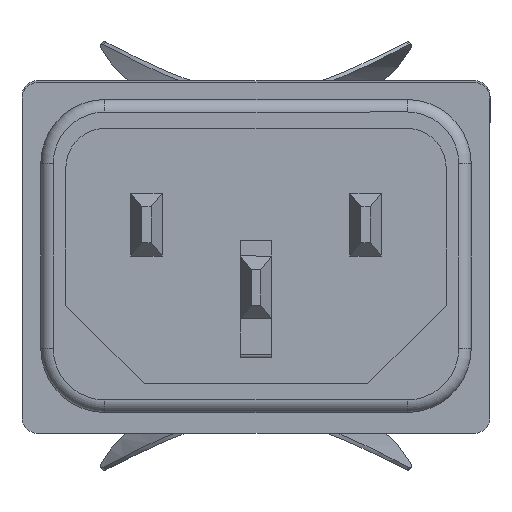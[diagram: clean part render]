
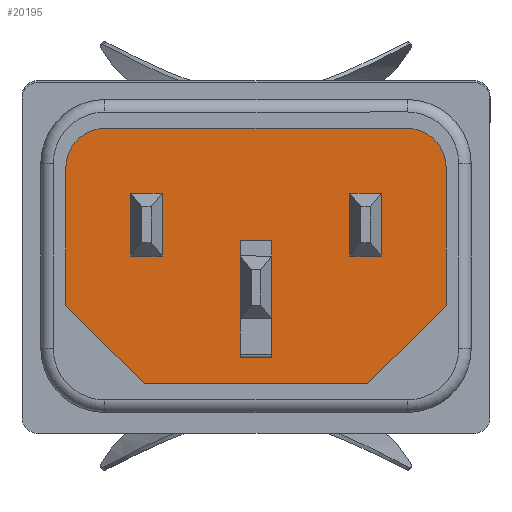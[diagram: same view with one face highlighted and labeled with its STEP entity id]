
A CAD part, front view. The second image highlights one B-rep face of the part: STEP entity #20195.
In plain terms, the highlighted planar face has unit normal (0, -1, 0).
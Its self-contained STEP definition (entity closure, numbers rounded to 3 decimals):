
#16637=CARTESIAN_POINT('',(-6.0,12.85,4.));
#16638=VERTEX_POINT('',#16637);
#16639=CARTESIAN_POINT('',(-6.0,12.85,0.));
#16640=VERTEX_POINT('',#16639);
#16641=CARTESIAN_POINT('',(-6.0,12.85,4.));
#16642=DIRECTION('',(0.0,0.0,-1.0));
#16643=VECTOR('',#16642,4.);
#16644=LINE('',#16641,#16643);
#16645=EDGE_CURVE('',#16638,#16640,#16644,.T.);
#16787=CARTESIAN_POINT('',(-8.,12.85,0.));
#16788=VERTEX_POINT('',#16787);
#16789=CARTESIAN_POINT('',(-8.,12.85,4.));
#16790=VERTEX_POINT('',#16789);
#16791=CARTESIAN_POINT('',(-8.,12.85,0.));
#16792=DIRECTION('',(0.0,0.0,1.0));
#16793=VECTOR('',#16792,4.);
#16794=LINE('',#16791,#16793);
#16795=EDGE_CURVE('',#16788,#16790,#16794,.T.);
#16821=CARTESIAN_POINT('',(-8.0,12.85,4.));
#16822=DIRECTION('',(1.0,0.0,0.0));
#16823=VECTOR('',#16822,2.0);
#16824=LINE('',#16821,#16823);
#16825=EDGE_CURVE('',#16790,#16638,#16824,.T.);
#16853=CARTESIAN_POINT('',(-6.0,12.85,0.));
#16854=DIRECTION('',(-1.0,0.0,0.0));
#16855=VECTOR('',#16854,2.);
#16856=LINE('',#16853,#16855);
#16857=EDGE_CURVE('',#16640,#16788,#16856,.T.);
#16976=CARTESIAN_POINT('',(1.,12.85,-6.051));
#16977=VERTEX_POINT('',#16976);
#16978=CARTESIAN_POINT('',(-1.,12.85,-6.051));
#16979=VERTEX_POINT('',#16978);
#16980=CARTESIAN_POINT('',(1.,12.85,-6.051));
#16981=DIRECTION('',(-1.0,0.0,0.0));
#16982=VECTOR('',#16981,2.0);
#16983=LINE('',#16980,#16982);
#16984=EDGE_CURVE('',#16977,#16979,#16983,.T.);
#17096=CARTESIAN_POINT('',(1.,12.85,1.));
#17097=VERTEX_POINT('',#17096);
#17098=CARTESIAN_POINT('',(1.,12.85,1.));
#17099=DIRECTION('',(0.0,0.0,-1.0));
#17100=VECTOR('',#17099,7.051);
#17101=LINE('',#17098,#17100);
#17102=EDGE_CURVE('',#17097,#16977,#17101,.T.);
#17278=CARTESIAN_POINT('',(-1.,12.85,1.));
#17279=VERTEX_POINT('',#17278);
#17280=CARTESIAN_POINT('',(-1.,12.85,-6.051));
#17281=DIRECTION('',(0.0,0.0,1.0));
#17282=VECTOR('',#17281,7.051);
#17283=LINE('',#17280,#17282);
#17284=EDGE_CURVE('',#16979,#17279,#17283,.T.);
#17477=CARTESIAN_POINT('',(-1.,12.85,1.));
#17478=DIRECTION('',(1.0,0.0,0.0));
#17479=VECTOR('',#17478,2.0);
#17480=LINE('',#17477,#17479);
#17481=EDGE_CURVE('',#17279,#17097,#17480,.T.);
#17787=CARTESIAN_POINT('',(8.,12.85,4.));
#17788=VERTEX_POINT('',#17787);
#17789=CARTESIAN_POINT('',(8.0,12.85,0.));
#17790=VERTEX_POINT('',#17789);
#17791=CARTESIAN_POINT('',(8.,12.85,4.));
#17792=DIRECTION('',(0.0,0.0,-1.0));
#17793=VECTOR('',#17792,4.);
#17794=LINE('',#17791,#17793);
#17795=EDGE_CURVE('',#17788,#17790,#17794,.T.);
#17937=CARTESIAN_POINT('',(6.,12.85,0.));
#17938=VERTEX_POINT('',#17937);
#17939=CARTESIAN_POINT('',(6.,12.85,4.));
#17940=VERTEX_POINT('',#17939);
#17941=CARTESIAN_POINT('',(6.0,12.85,0.));
#17942=DIRECTION('',(0.0,0.0,1.0));
#17943=VECTOR('',#17942,4.);
#17944=LINE('',#17941,#17943);
#17945=EDGE_CURVE('',#17938,#17940,#17944,.T.);
#17971=CARTESIAN_POINT('',(6.,12.85,4.));
#17972=DIRECTION('',(1.0,0.0,0.0));
#17973=VECTOR('',#17972,2.0);
#17974=LINE('',#17971,#17973);
#17975=EDGE_CURVE('',#17940,#17788,#17974,.T.);
#18003=CARTESIAN_POINT('',(8.0,12.85,0.));
#18004=DIRECTION('',(-1.0,0.0,0.0));
#18005=VECTOR('',#18004,2.);
#18006=LINE('',#18003,#18005);
#18007=EDGE_CURVE('',#17790,#17938,#18006,.T.);
#19973=CARTESIAN_POINT('',(12.15,12.85,5.65));
#19974=VERTEX_POINT('',#19973);
#19975=CARTESIAN_POINT('',(9.65,12.85,8.15));
#19976=VERTEX_POINT('',#19975);
#19977=CARTESIAN_POINT('',(9.65,12.85,5.65));
#19978=DIRECTION('',(0.0,-1.0,0.0));
#19979=DIRECTION('',(1.0,0.0,0.0));
#19980=AXIS2_PLACEMENT_3D('',#19977,#19978,#19979);
#19981=CIRCLE('',#19980,2.5);
#19982=EDGE_CURVE('',#19974,#19976,#19981,.T.);
#20005=CARTESIAN_POINT('',(-9.65,12.85,8.15));
#20006=VERTEX_POINT('',#20005);
#20007=CARTESIAN_POINT('',(9.65,12.85,8.15));
#20008=DIRECTION('',(-1.0,0.0,0.0));
#20009=VECTOR('',#20008,19.3);
#20010=LINE('',#20007,#20009);
#20011=EDGE_CURVE('',#19976,#20006,#20010,.T.);
#20029=CARTESIAN_POINT('',(-12.15,12.85,5.65));
#20030=VERTEX_POINT('',#20029);
#20031=CARTESIAN_POINT('',(-9.65,12.85,5.65));
#20032=DIRECTION('',(0.0,-1.0,0.0));
#20033=DIRECTION('',(0.0,0.0,1.0));
#20034=AXIS2_PLACEMENT_3D('',#20031,#20032,#20033);
#20035=CIRCLE('',#20034,2.5);
#20036=EDGE_CURVE('',#20006,#20030,#20035,.T.);
#20054=CARTESIAN_POINT('',(-12.15,12.85,-3.15));
#20055=VERTEX_POINT('',#20054);
#20056=CARTESIAN_POINT('',(-12.15,12.85,5.65));
#20057=DIRECTION('',(0.0,0.0,-1.0));
#20058=VECTOR('',#20057,8.8);
#20059=LINE('',#20056,#20058);
#20060=EDGE_CURVE('',#20030,#20055,#20059,.T.);
#20078=CARTESIAN_POINT('',(-7.15,12.85,-8.15));
#20079=VERTEX_POINT('',#20078);
#20080=CARTESIAN_POINT('',(-12.15,12.85,-3.15));
#20081=DIRECTION('',(0.707,0.0,-0.707));
#20082=VECTOR('',#20081,7.071);
#20083=LINE('',#20080,#20082);
#20084=EDGE_CURVE('',#20055,#20079,#20083,.T.);
#20102=CARTESIAN_POINT('',(7.15,12.85,-8.15));
#20103=VERTEX_POINT('',#20102);
#20104=CARTESIAN_POINT('',(-7.15,12.85,-8.15));
#20105=DIRECTION('',(1.0,0.0,0.0));
#20106=VECTOR('',#20105,14.3);
#20107=LINE('',#20104,#20106);
#20108=EDGE_CURVE('',#20079,#20103,#20107,.T.);
#20126=CARTESIAN_POINT('',(12.15,12.85,-3.15));
#20127=VERTEX_POINT('',#20126);
#20128=CARTESIAN_POINT('',(7.15,12.85,-8.15));
#20129=DIRECTION('',(0.707,0.0,0.707));
#20130=VECTOR('',#20129,7.071);
#20131=LINE('',#20128,#20130);
#20132=EDGE_CURVE('',#20103,#20127,#20131,.T.);
#20150=CARTESIAN_POINT('',(12.15,12.85,-3.15));
#20151=DIRECTION('',(0.0,0.0,1.0));
#20152=VECTOR('',#20151,8.8);
#20153=LINE('',#20150,#20152);
#20154=EDGE_CURVE('',#20127,#19974,#20153,.T.);
#20162=CARTESIAN_POINT('',(0.,12.85,0.539));
#20163=DIRECTION('',(0.0,1.0,0.0));
#20164=DIRECTION('',(0.0,0.0,1.0));
#20165=AXIS2_PLACEMENT_3D('',#20162,#20163,#20164);
#20166=PLANE('',#20165);
#20167=ORIENTED_EDGE('',*,*,#19982,.T.);
#20168=ORIENTED_EDGE('',*,*,#20011,.T.);
#20169=ORIENTED_EDGE('',*,*,#20036,.T.);
#20170=ORIENTED_EDGE('',*,*,#20060,.T.);
#20171=ORIENTED_EDGE('',*,*,#20084,.T.);
#20172=ORIENTED_EDGE('',*,*,#20108,.T.);
#20173=ORIENTED_EDGE('',*,*,#20132,.T.);
#20174=ORIENTED_EDGE('',*,*,#20154,.T.);
#20175=EDGE_LOOP('',(#20167,#20168,#20169,#20170,#20171,#20172,#20173,#20174));
#20176=FACE_OUTER_BOUND('',#20175,.T.);
#20177=ORIENTED_EDGE('',*,*,#16795,.T.);
#20178=ORIENTED_EDGE('',*,*,#16825,.T.);
#20179=ORIENTED_EDGE('',*,*,#16645,.T.);
#20180=ORIENTED_EDGE('',*,*,#16857,.T.);
#20181=EDGE_LOOP('',(#20177,#20178,#20179,#20180));
#20182=FACE_BOUND('',#20181,.T.);
#20183=ORIENTED_EDGE('',*,*,#17102,.T.);
#20184=ORIENTED_EDGE('',*,*,#16984,.T.);
#20185=ORIENTED_EDGE('',*,*,#17284,.T.);
#20186=ORIENTED_EDGE('',*,*,#17481,.T.);
#20187=EDGE_LOOP('',(#20183,#20184,#20185,#20186));
#20188=FACE_BOUND('',#20187,.T.);
#20189=ORIENTED_EDGE('',*,*,#17945,.T.);
#20190=ORIENTED_EDGE('',*,*,#17975,.T.);
#20191=ORIENTED_EDGE('',*,*,#17795,.T.);
#20192=ORIENTED_EDGE('',*,*,#18007,.T.);
#20193=EDGE_LOOP('',(#20189,#20190,#20191,#20192));
#20194=FACE_BOUND('',#20193,.T.);
#20195=ADVANCED_FACE('',(#20176,#20182,#20188,#20194),#20166,.F.);
